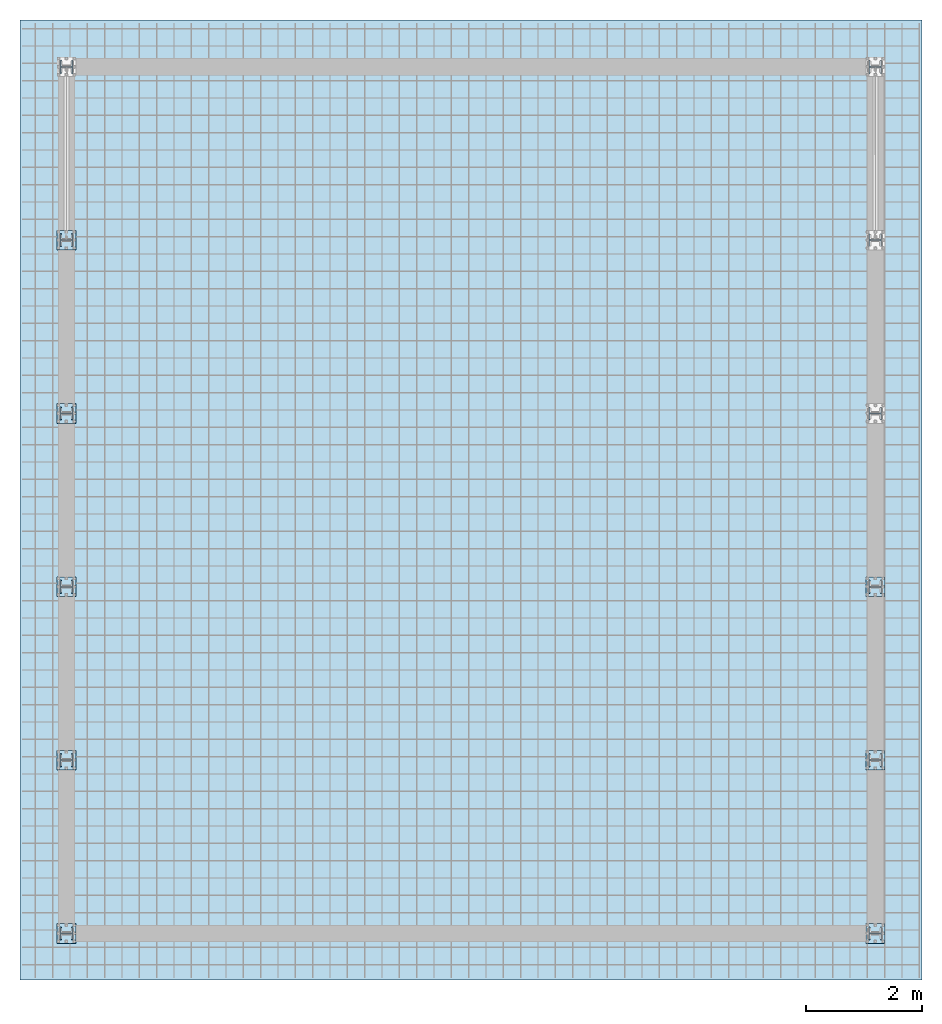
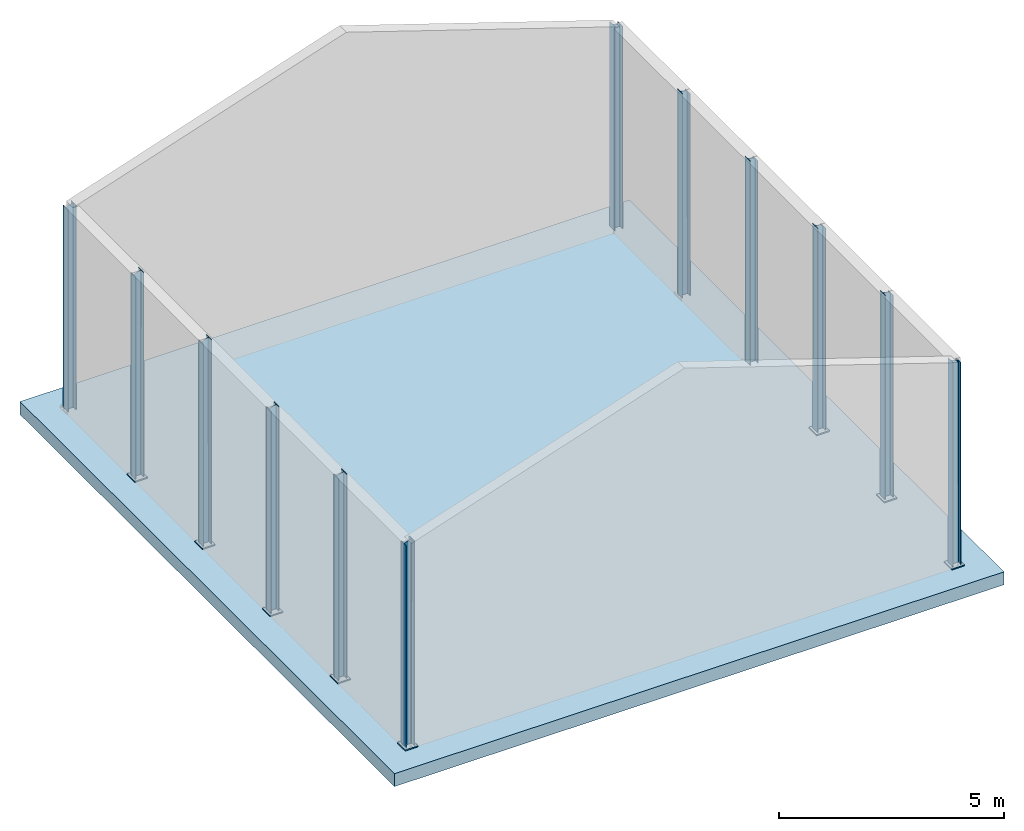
# One storey, part 1 of 29: 12 columns, 8 plates, 1 footing.
"""IFC4 building model written with IfcOpenShell, lengths in metres."""

from ifc_helpers import new_model, si_unit, frame, origin_with_axes, origin_2d_with_axis, place, context, project, spatial, polyline, i_section, l_section, outline, extrude, clip, halfspace, faceted_brep, material, layer, layer_set, layer_usage, material_profile, profile_set, profile_usage, type_object, element, save


model = new_model("IFC4")

# Units and contexts
model_context = context("Model", 3, precision=1e-05, world=origin_with_axes())
ifc_project = project(units=[si_unit("LENGTHUNIT", "METRE"), si_unit("AREAUNIT", "SQUARE_METRE"), si_unit("VOLUMEUNIT", "CUBIC_METRE"), si_unit("MASSUNIT", "GRAM", prefix="KILO"), si_unit("TIMEUNIT", "SECOND"), si_unit("PLANEANGLEUNIT", "RADIAN"), si_unit("SOLIDANGLEUNIT", "STERADIAN"), si_unit("THERMODYNAMICTEMPERATUREUNIT", "DEGREE_CELSIUS")], contexts=[model_context])

# Site, building, storey
placement_1 = place(None, origin_with_axes())
site = spatial("IfcSite", under=ifc_project, at=placement_1, Name="Italia", CompositionType="ELEMENT")
building = spatial("IfcBuilding", under=site, at=placement_1, Name="Capannone", CompositionType="ELEMENT")
storey = spatial("IfcBuildingStorey", under=building, at=placement_1, Name="Storey 0", CompositionType="ELEMENT", Elevation=0.0)

# Footing
ifc_material_1 = material(Name="Calcestruzzo classe C25/30", Category="Calcestruzzo classe C25/30")
ifc_layer = layer(ifc_material_1, 0.35)
ifc_layer_set = layer_set([ifc_layer])
ifc_layer_usage = layer_usage(ifc_layer_set, "AXIS3", "POSITIVE", -0.35)
footing_type = type_object("IfcFootingType", Name="1 Platea di fondazione", PredefinedType="STRIP_FOOTING")
placement_2 = place(placement_1, origin_with_axes())
footing_placement = place(placement_2, origin_with_axes())
element("IfcFooting", 1, at=footing_placement, inside=storey, type_object=footing_type, material=ifc_layer_usage, context=model_context, shape_type="Brep", body=[
    faceted_brep([(-0.805, 15.81, 0.0), (-0.805, 15.81, -0.35), (14.805, 15.81, -0.35), (14.805, 15.81, 0.0), (14.805, 15.81, 0.0), (14.805, 15.81, -0.35), (14.805, -0.804999, -0.35), (14.805, -0.804999, 0.0), (14.805, -0.804999, 0.0), (14.805, -0.804999, -0.35), (-0.805, -0.804999, -0.35), (-0.805, -0.804999, 0.0), (-0.805, -0.804999, 0.0), (-0.805, -0.804999, -0.35), (-0.805, 15.81, -0.35), (-0.805, 15.81, 0.0), (-0.805, 15.81, -0.35), (14.805, 15.81, -0.35), (14.805, -0.804999, -0.35), (-0.805, -0.804999, -0.35), (-0.805, 15.81, 0.0), (14.805, 15.81, 0.0), (14.805, -0.804999, 0.0), (-0.805, -0.804999, 0.0)], [[[0, 1, 2, 3]], [[4, 5, 6, 7]], [[8, 9, 10, 11]], [[12, 13, 14, 15]], [[16, 17, 18, 19]], [[20, 21, 22, 23]]]),
])

# Columns
ifc_material_2 = material(Name="Acciaio", Category="Acciaio")
ifc_material_profile = material_profile(ifc_material_2, l_section(Depth=0.045, Width=0.045, Thickness=0.004, FilletRadius=0.0, EdgeRadius=0.0, at=origin_2d_with_axis()), Name="2 L45x4")
ifc_profile_set = profile_set([ifc_material_profile])
ifc_profile_usage_1 = profile_usage(ifc_profile_set, cardinal=5)
column_type_1 = type_object("IfcColumnType", Name="5 HEA220", PredefinedType="COLUMN", material=ifc_profile_usage_1)
column_1_placement = place(placement_2, frame((14.000000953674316, 12.0, -2.774999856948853), z_axis=(0.0, 0.0, 1.0), x_axis=(1.0, 0.0, 0.0)))
element("IfcColumn", 2, at=column_1_placement, inside=storey, type_object=column_type_1, Name="10", context=model_context, shape_type="Clipping", body=[
    clip(clip(extrude(i_section(OverallWidth=0.22, OverallDepth=0.21, WebThickness=0.007, FlangeThickness=0.011, FilletRadius=0.018, at=origin_2d_with_axis()), frame((0.0, 0.0, 0.0), z_axis=(0.0, 0.0, 1.0), x_axis=(0.0, 1.0, 0.0)), (0.0, 0.0, 1.0), 11.1), halfspace(frame((0.0, 0.0, 2.805), z_axis=(0.0, 1.7489681e-08, -1.0), x_axis=(1.0, 0.0, 0.0)), False)), halfspace(frame((-9.53674e-07, 0.0, 8.30921), z_axis=(-0.312172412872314, 0.0, -0.950025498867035), x_axis=(0.0, -1.0, 0.0)), True)),
])
ifc_profile_usage_2 = profile_usage(ifc_profile_set, cardinal=5)
column_type_2 = type_object("IfcColumnType", Name="5 HEA220", PredefinedType="COLUMN", material=ifc_profile_usage_2)
column_2_placement = place(placement_2, frame((14.000000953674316, 3.0, -2.774999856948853), z_axis=(0.0, 0.0, 1.0), x_axis=(1.0, 0.0, 0.0)))
element("IfcColumn", 3, at=column_2_placement, inside=storey, type_object=column_type_2, Name="4", context=model_context, shape_type="Clipping", body=[
    clip(clip(extrude(i_section(OverallWidth=0.22, OverallDepth=0.21, WebThickness=0.007, FlangeThickness=0.011, FilletRadius=0.018, at=origin_2d_with_axis()), frame((0.0, 0.0, 0.0), z_axis=(0.0, 0.0, 1.0), x_axis=(0.0, 1.0, 0.0)), (0.0, 0.0, 1.0), 11.1), halfspace(frame((0.0, -2.38419e-07, 2.805), z_axis=(0.0, 1.7489642e-08, -1.0), x_axis=(1.0, 0.0, 0.0)), False)), halfspace(frame((-9.53674e-07, -2.38419e-07, 8.30921), z_axis=(-0.312172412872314, 0.0, -0.950025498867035), x_axis=(0.0, -1.0, 0.0)), True)),
])
ifc_profile_usage_3 = profile_usage(ifc_profile_set, cardinal=5)
column_type_3 = type_object("IfcColumnType", Name="5 HEA220", PredefinedType="COLUMN", material=ifc_profile_usage_3)
column_3_placement = place(placement_2, frame((14.000000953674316, 6.0, -2.774999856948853), z_axis=(0.0, 0.0, 1.0), x_axis=(1.0, 0.0, 0.0)))
element("IfcColumn", 4, at=column_3_placement, inside=storey, type_object=column_type_3, Name="6", context=model_context, shape_type="Clipping", body=[
    clip(clip(extrude(i_section(OverallWidth=0.22, OverallDepth=0.21, WebThickness=0.007, FlangeThickness=0.011, FilletRadius=0.018, at=origin_2d_with_axis()), frame((0.0, 0.0, 0.0), z_axis=(0.0, 0.0, 1.0), x_axis=(0.0, 1.0, 0.0)), (0.0, 0.0, 1.0), 11.1), halfspace(frame((0.0, -4.76837e-07, 2.805), z_axis=(0.0, 1.7489601e-08, -1.0), x_axis=(1.0, 0.0, 0.0)), False)), halfspace(frame((-9.53674e-07, -4.76837e-07, 8.30921), z_axis=(-0.312172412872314, 0.0, -0.95002543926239), x_axis=(0.0, -1.0, 0.0)), True)),
])
ifc_profile_usage_4 = profile_usage(ifc_profile_set, cardinal=5)
column_type_4 = type_object("IfcColumnType", Name="5 HEA220", PredefinedType="COLUMN", material=ifc_profile_usage_4)
column_4_placement = place(placement_2, frame((14.000000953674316, 9.0, -2.774999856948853), z_axis=(0.0, 0.0, 1.0), x_axis=(1.0, 0.0, 0.0)))
element("IfcColumn", 5, at=column_4_placement, inside=storey, type_object=column_type_4, Name="8", context=model_context, shape_type="Clipping", body=[
    clip(clip(extrude(i_section(OverallWidth=0.22, OverallDepth=0.21, WebThickness=0.007, FlangeThickness=0.011, FilletRadius=0.018, at=origin_2d_with_axis()), frame((0.0, 0.0, 0.0), z_axis=(0.0, 0.0, 1.0), x_axis=(0.0, 1.0, 0.0)), (0.0, 0.0, 1.0), 11.1), halfspace(frame((0.0, -9.53674e-07, 2.805), z_axis=(0.0, 1.7489681e-08, -1.0), x_axis=(1.0, 0.0, 0.0)), False)), halfspace(frame((-9.53674e-07, -9.53674e-07, 8.30921), z_axis=(-0.312172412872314, 0.0, -0.950025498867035), x_axis=(0.0, -1.0, 0.0)), True)),
])
ifc_profile_usage_5 = profile_usage(ifc_profile_set, cardinal=5)
column_type_5 = type_object("IfcColumnType", Name="5 HEA220", PredefinedType="COLUMN", material=ifc_profile_usage_5)
column_5_placement = place(placement_2, frame((-3.72529e-09, 12.0, -2.774999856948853), z_axis=(0.0, 0.0, 1.0), x_axis=(1.0, 0.0, 0.0)))
element("IfcColumn", 6, at=column_5_placement, inside=storey, type_object=column_type_5, Name="9", context=model_context, shape_type="Clipping", body=[
    clip(clip(extrude(i_section(OverallWidth=0.22, OverallDepth=0.21, WebThickness=0.007, FlangeThickness=0.011, FilletRadius=0.018, at=origin_2d_with_axis()), frame((0.0, 0.0, 0.0), z_axis=(0.0, 0.0, 1.0), x_axis=(0.0, 1.0, 0.0)), (0.0, 0.0, 1.0), 11.1), halfspace(frame((0.0, 0.0, 2.805), z_axis=(0.0, 1.7489681e-08, -1.0), x_axis=(1.0, 0.0, 0.0)), False)), halfspace(frame((-4.23441e-07, 0.0, 8.30921), z_axis=(0.312165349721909, 0.0, -0.950027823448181), x_axis=(0.0, 1.0, 0.0)), True)),
])
ifc_profile_usage_6 = profile_usage(ifc_profile_set, cardinal=5)
column_type_6 = type_object("IfcColumnType", Name="5 HEA220", PredefinedType="COLUMN", material=ifc_profile_usage_6)
column_6_placement = place(placement_2, frame((-3.72529e-09, 9.0, -2.774999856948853), z_axis=(0.0, 0.0, 1.0), x_axis=(1.0, 0.0, 0.0)))
element("IfcColumn", 7, at=column_6_placement, inside=storey, type_object=column_type_6, Name="7", context=model_context, shape_type="Clipping", body=[
    clip(clip(extrude(i_section(OverallWidth=0.22, OverallDepth=0.21, WebThickness=0.007, FlangeThickness=0.011, FilletRadius=0.018, at=origin_2d_with_axis()), frame((0.0, 0.0, 0.0), z_axis=(0.0, 0.0, 1.0), x_axis=(0.0, 1.0, 0.0)), (0.0, 0.0, 1.0), 11.1), halfspace(frame((0.0, -9.53674e-07, 2.805), z_axis=(0.0, 1.7489681e-08, -1.0), x_axis=(1.0, 0.0, 0.0)), False)), halfspace(frame((-4.33375e-07, -9.53674e-07, 8.30921), z_axis=(0.312165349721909, 0.0, -0.950027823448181), x_axis=(0.0, 1.0, 0.0)), True)),
])
ifc_profile_usage_7 = profile_usage(ifc_profile_set, cardinal=5)
column_type_7 = type_object("IfcColumnType", Name="5 HEA220", PredefinedType="COLUMN", material=ifc_profile_usage_7)
column_7_placement = place(placement_2, frame((-3.72529e-09, 6.0, -2.774999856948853), z_axis=(0.0, 0.0, 1.0), x_axis=(1.0, 0.0, 0.0)))
element("IfcColumn", 8, at=column_7_placement, inside=storey, type_object=column_type_7, Name="5", context=model_context, shape_type="Clipping", body=[
    clip(clip(extrude(i_section(OverallWidth=0.22, OverallDepth=0.21, WebThickness=0.007, FlangeThickness=0.011, FilletRadius=0.018, at=origin_2d_with_axis()), frame((0.0, 0.0, 0.0), z_axis=(0.0, 0.0, 1.0), x_axis=(0.0, 1.0, 0.0)), (0.0, 0.0, 1.0), 11.1), halfspace(frame((0.0, -4.76837e-07, 2.805), z_axis=(0.0, 1.7489601e-08, -1.0), x_axis=(1.0, 0.0, 0.0)), False)), halfspace(frame((-3.64458e-07, -4.76837e-07, 8.30921), z_axis=(0.312162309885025, 0.0, -0.950028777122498), x_axis=(0.0, 1.0, 0.0)), True)),
])
ifc_profile_usage_8 = profile_usage(ifc_profile_set, cardinal=5)
column_type_8 = type_object("IfcColumnType", Name="5 HEA220", PredefinedType="COLUMN", material=ifc_profile_usage_8)
column_8_placement = place(placement_2, frame((-3.72529e-09, 3.0, -2.774999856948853), z_axis=(0.0, 0.0, 1.0), x_axis=(1.0, 0.0, 0.0)))
element("IfcColumn", 9, at=column_8_placement, inside=storey, type_object=column_type_8, Name="3", context=model_context, shape_type="Clipping", body=[
    clip(clip(extrude(i_section(OverallWidth=0.22, OverallDepth=0.21, WebThickness=0.007, FlangeThickness=0.011, FilletRadius=0.018, at=origin_2d_with_axis()), frame((0.0, 0.0, 0.0), z_axis=(0.0, 0.0, 1.0), x_axis=(0.0, 1.0, 0.0)), (0.0, 0.0, 1.0), 11.1), halfspace(frame((0.0, -2.38419e-07, 2.805), z_axis=(0.0, 1.7489642e-08, -1.0), x_axis=(1.0, 0.0, 0.0)), False)), halfspace(frame((-4.13507e-07, -2.38419e-07, 8.30921), z_axis=(0.312165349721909, 0.0, -0.950027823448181), x_axis=(0.0, 1.0, 0.0)), True)),
])
ifc_profile_usage_9 = profile_usage(ifc_profile_set, cardinal=5)
column_type_9 = type_object("IfcColumnType", Name="5 HEA220", PredefinedType="COLUMN", material=ifc_profile_usage_9)
column_9_placement = place(placement_2, frame((14.000000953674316, 15.000000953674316, -2.774999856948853), z_axis=(0.0, 0.0, 1.0), x_axis=(1.0, 0.0, 0.0)))
element("IfcColumn", 10, at=column_9_placement, inside=storey, type_object=column_type_9, Name="12", context=model_context, shape_type="Clipping", body=[
    clip(clip(extrude(i_section(OverallWidth=0.22, OverallDepth=0.21, WebThickness=0.007, FlangeThickness=0.011, FilletRadius=0.018, at=origin_2d_with_axis()), frame((0.0, 0.0, 0.0), z_axis=(0.0, 0.0, 1.0), x_axis=(0.0, 1.0, 0.0)), (0.0, 0.0, 1.0), 11.1), halfspace(frame((0.0, -9.53674e-07, 2.805), z_axis=(0.0, 1.7489681e-08, -1.0), x_axis=(1.0, 0.0, 0.0)), False)), halfspace(frame((-9.53674e-07, -9.53674e-07, 8.30921), z_axis=(-0.312172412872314, 0.0, -0.950025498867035), x_axis=(0.0, -1.0, 0.0)), True)),
])
ifc_profile_usage_10 = profile_usage(ifc_profile_set, cardinal=5)
column_type_10 = type_object("IfcColumnType", Name="5 HEA220", PredefinedType="COLUMN", material=ifc_profile_usage_10)
column_10_placement = place(placement_2, frame((-3.72529e-09, 15.000000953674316, -2.774999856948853), z_axis=(0.0, 0.0, 1.0), x_axis=(1.0, 0.0, 0.0)))
element("IfcColumn", 11, at=column_10_placement, inside=storey, type_object=column_type_10, Name="11", context=model_context, shape_type="Clipping", body=[
    clip(clip(extrude(i_section(OverallWidth=0.22, OverallDepth=0.21, WebThickness=0.007, FlangeThickness=0.011, FilletRadius=0.018, at=origin_2d_with_axis()), frame((0.0, 0.0, 0.0), z_axis=(0.0, 0.0, 1.0), x_axis=(0.0, 1.0, 0.0)), (0.0, 0.0, 1.0), 11.1), halfspace(frame((0.0, -9.53674e-07, 2.805), z_axis=(0.0, 1.7489681e-08, -1.0), x_axis=(1.0, 0.0, 0.0)), False)), halfspace(frame((-3.76875e-07, -9.53674e-07, 8.30921), z_axis=(0.312162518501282, 2.6230698e-08, -0.950028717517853), x_axis=(-8.4028983e-08, 1.0, 0.0)), True)),
])
ifc_profile_usage_11 = profile_usage(ifc_profile_set, cardinal=5)
column_type_11 = type_object("IfcColumnType", Name="5 HEA220", PredefinedType="COLUMN", material=ifc_profile_usage_11)
column_11_placement = place(placement_2, frame((-3.72529e-09, 1.4901161e-08, -2.774999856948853), z_axis=(0.0, 0.0, 1.0), x_axis=(1.0, 0.0, 0.0)))
element("IfcColumn", 12, at=column_11_placement, inside=storey, type_object=column_type_11, Name="1", context=model_context, shape_type="Clipping", body=[
    clip(clip(extrude(i_section(OverallWidth=0.22, OverallDepth=0.21, WebThickness=0.007, FlangeThickness=0.011, FilletRadius=0.018, at=origin_2d_with_axis()), frame((0.0, 0.0, 0.0), z_axis=(0.0, -5.369788e-09, 1.0), x_axis=(0.0, 1.0, 0.0)), (0.0, 0.0, 1.0), 11.1), halfspace(frame((0.0, 0.0, 2.805), z_axis=(0.0, 1.7489626e-08, -1.0), x_axis=(1.0, 0.0, 0.0)), False)), halfspace(frame((-4.33996e-07, 0.0, 8.30921), z_axis=(0.312165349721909, -3.747242e-09, -0.950027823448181), x_axis=(1.2004028e-08, 1.0, 0.0)), True)),
])
ifc_profile_usage_12 = profile_usage(ifc_profile_set, cardinal=5)
column_type_12 = type_object("IfcColumnType", Name="5 HEA220", PredefinedType="COLUMN", material=ifc_profile_usage_12)
column_12_placement = place(placement_2, frame((14.000000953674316, 1.4901161e-08, -2.774999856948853), z_axis=(0.0, 0.0, 1.0), x_axis=(1.0, 0.0, 0.0)))
element("IfcColumn", 13, at=column_12_placement, inside=storey, type_object=column_type_12, Name="2", context=model_context, shape_type="Clipping", body=[
    clip(clip(extrude(i_section(OverallWidth=0.22, OverallDepth=0.21, WebThickness=0.007, FlangeThickness=0.011, FilletRadius=0.018, at=origin_2d_with_axis()), frame((0.0, 0.0, 0.0), z_axis=(0.0, -5.369788e-09, 1.0), x_axis=(0.0, 1.0, 0.0)), (0.0, 0.0, 1.0), 11.1), halfspace(frame((0.0, 0.0, 2.805), z_axis=(0.0, 1.7489626e-08, -1.0), x_axis=(1.0, 0.0, 0.0)), False)), halfspace(frame((-9.53674e-07, 0.0, 8.30921), z_axis=(-0.312172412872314, 0.0, -0.95002543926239), x_axis=(0.0, -1.0, 0.0)), True)),
])

# Plates
plate_type_1 = type_object("IfcPlateType", Name="Collegamenti 0001_0101 0002_0102 0003_0103 0004_0104 0005_0105 0006_0106 0007_0107 0008_0108 0009_0109 0010_0110 0011_0111 0012_0112", PredefinedType="SHEET")
plate_1_placement = place(placement_2, origin_with_axes())
element("IfcPlate", 14, at=plate_1_placement, inside=storey, type_object=plate_type_1, Name="Collegamenti 0001_0101 0002_0102 0003_0103 0004_0104 0005_0105 0006_0106 0007_0107 0008_0108 0009_0109 0010_0110 0011_0111 0012_0112", context=model_context, shape_type="SweptSolid", body=[
    extrude(outline(polyline([(0.0, 0.0), (0.34, 0.0), (0.34, -0.33), (0.0, -0.33), (0.0, 0.0)])), frame((0.165, -0.17, 0.03), z_axis=(0.0, 0.0, -1.0), x_axis=(0.0, 1.0, 0.0)), (0.0, 0.0, 1.0), 0.03),
])
plate_type_2 = type_object("IfcPlateType", Name="Collegamenti 0001_0101 0002_0102 0003_0103 0004_0104 0005_0105 0006_0106 0007_0107 0008_0108 0009_0109 0010_0110 0011_0111 0012_0112", PredefinedType="SHEET")
plate_2_placement = place(placement_2, origin_with_axes())
element("IfcPlate", 15, at=plate_2_placement, inside=storey, type_object=plate_type_2, Name="Collegamenti 0001_0101 0002_0102 0003_0103 0004_0104 0005_0105 0006_0106 0007_0107 0008_0108 0009_0109 0010_0110 0011_0111 0012_0112", context=model_context, shape_type="SweptSolid", body=[
    extrude(outline(polyline([(0.0, 0.0), (0.34, 0.0), (0.34, -0.33), (0.0, -0.33), (0.0, 0.0)])), frame((14.165, -0.17, 0.03), z_axis=(0.0, 0.0, -1.0), x_axis=(0.0, 1.0, 0.0)), (0.0, 0.0, 1.0), 0.03),
])
plate_type_3 = type_object("IfcPlateType", Name="Collegamenti 0001_0101 0002_0102 0003_0103 0004_0104 0005_0105 0006_0106 0007_0107 0008_0108 0009_0109 0010_0110 0011_0111 0012_0112", PredefinedType="SHEET")
plate_3_placement = place(placement_2, origin_with_axes())
element("IfcPlate", 16, at=plate_3_placement, inside=storey, type_object=plate_type_3, Name="Collegamenti 0001_0101 0002_0102 0003_0103 0004_0104 0005_0105 0006_0106 0007_0107 0008_0108 0009_0109 0010_0110 0011_0111 0012_0112", context=model_context, shape_type="SweptSolid", body=[
    extrude(outline(polyline([(0.0, 0.0), (0.34, 0.0), (0.34, -0.33), (0.0, -0.33), (0.0, 0.0)])), frame((0.165, 2.83, 0.03), z_axis=(0.0, 0.0, -1.0), x_axis=(0.0, 1.0, 0.0)), (0.0, 0.0, 1.0), 0.03),
])
plate_type_4 = type_object("IfcPlateType", Name="Collegamenti 0001_0101 0002_0102 0003_0103 0004_0104 0005_0105 0006_0106 0007_0107 0008_0108 0009_0109 0010_0110 0011_0111 0012_0112", PredefinedType="SHEET")
plate_4_placement = place(placement_2, origin_with_axes())
element("IfcPlate", 17, at=plate_4_placement, inside=storey, type_object=plate_type_4, Name="Collegamenti 0001_0101 0002_0102 0003_0103 0004_0104 0005_0105 0006_0106 0007_0107 0008_0108 0009_0109 0010_0110 0011_0111 0012_0112", context=model_context, shape_type="SweptSolid", body=[
    extrude(outline(polyline([(0.0, 0.0), (0.34, 0.0), (0.34, -0.33), (0.0, -0.33), (0.0, 0.0)])), frame((14.165, 2.83, 0.03), z_axis=(0.0, 0.0, -1.0), x_axis=(0.0, 1.0, 0.0)), (0.0, 0.0, 1.0), 0.03),
])
plate_type_5 = type_object("IfcPlateType", Name="Collegamenti 0001_0101 0002_0102 0003_0103 0004_0104 0005_0105 0006_0106 0007_0107 0008_0108 0009_0109 0010_0110 0011_0111 0012_0112", PredefinedType="SHEET")
plate_5_placement = place(placement_2, origin_with_axes())
element("IfcPlate", 18, at=plate_5_placement, inside=storey, type_object=plate_type_5, Name="Collegamenti 0001_0101 0002_0102 0003_0103 0004_0104 0005_0105 0006_0106 0007_0107 0008_0108 0009_0109 0010_0110 0011_0111 0012_0112", context=model_context, shape_type="SweptSolid", body=[
    extrude(outline(polyline([(0.0, 0.0), (0.34, 0.0), (0.34, -0.33), (0.0, -0.33), (0.0, 0.0)])), frame((0.165, 5.83, 0.03), z_axis=(0.0, 0.0, -1.0), x_axis=(0.0, 1.0, 0.0)), (0.0, 0.0, 1.0), 0.03),
])
plate_type_6 = type_object("IfcPlateType", Name="Collegamenti 0001_0101 0002_0102 0003_0103 0004_0104 0005_0105 0006_0106 0007_0107 0008_0108 0009_0109 0010_0110 0011_0111 0012_0112", PredefinedType="SHEET")
plate_6_placement = place(placement_2, origin_with_axes())
element("IfcPlate", 19, at=plate_6_placement, inside=storey, type_object=plate_type_6, Name="Collegamenti 0001_0101 0002_0102 0003_0103 0004_0104 0005_0105 0006_0106 0007_0107 0008_0108 0009_0109 0010_0110 0011_0111 0012_0112", context=model_context, shape_type="SweptSolid", body=[
    extrude(outline(polyline([(0.0, 0.0), (0.34, 0.0), (0.34, -0.33), (0.0, -0.33), (0.0, 0.0)])), frame((14.165, 5.83, 0.03), z_axis=(0.0, 0.0, -1.0), x_axis=(0.0, 1.0, 0.0)), (0.0, 0.0, 1.0), 0.03),
])
plate_type_7 = type_object("IfcPlateType", Name="Collegamenti 0001_0101 0002_0102 0003_0103 0004_0104 0005_0105 0006_0106 0007_0107 0008_0108 0009_0109 0010_0110 0011_0111 0012_0112", PredefinedType="SHEET")
plate_7_placement = place(placement_2, origin_with_axes())
element("IfcPlate", 20, at=plate_7_placement, inside=storey, type_object=plate_type_7, Name="Collegamenti 0001_0101 0002_0102 0003_0103 0004_0104 0005_0105 0006_0106 0007_0107 0008_0108 0009_0109 0010_0110 0011_0111 0012_0112", context=model_context, shape_type="SweptSolid", body=[
    extrude(outline(polyline([(0.0, 0.0), (0.34, 0.0), (0.34, -0.33), (0.0, -0.33), (0.0, 0.0)])), frame((0.165, 8.83, 0.03), z_axis=(0.0, 0.0, -1.0), x_axis=(0.0, 1.0, 0.0)), (0.0, 0.0, 1.0), 0.03),
])
plate_type_8 = type_object("IfcPlateType", Name="Collegamenti 0001_0101 0002_0102 0003_0103 0004_0104 0005_0105 0006_0106 0007_0107 0008_0108 0009_0109 0010_0110 0011_0111 0012_0112", PredefinedType="SHEET")
plate_8_placement = place(placement_2, origin_with_axes())
element("IfcPlate", 21, at=plate_8_placement, inside=storey, type_object=plate_type_8, Name="Collegamenti 0001_0101 0002_0102 0003_0103 0004_0104 0005_0105 0006_0106 0007_0107 0008_0108 0009_0109 0010_0110 0011_0111 0012_0112", context=model_context, shape_type="SweptSolid", body=[
    extrude(outline(polyline([(0.0, 0.0), (0.34, 0.0), (0.34, -0.33), (0.0, -0.33), (0.0, 0.0)])), frame((0.165, 11.83, 0.03), z_axis=(0.0, 0.0, -1.0), x_axis=(0.0, 1.0, 0.0)), (0.0, 0.0, 1.0), 0.03),
])

save(model, "model.ifc")
